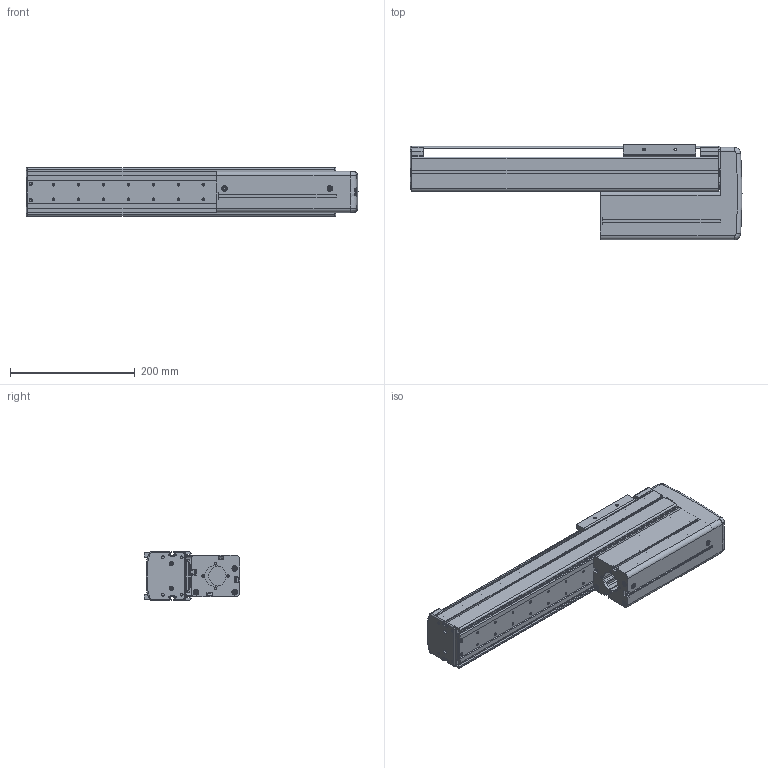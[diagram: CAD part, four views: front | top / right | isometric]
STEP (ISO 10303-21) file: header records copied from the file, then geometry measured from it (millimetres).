
FILE_DESCRIPTION((''),'2;1');
FILE_NAME('BE10E-UU-M_B-30_IGS_PRT','2017-06-17T',(' '),(''),'PRO/ENGINEER BY PARAMETRIC TECHNOLOGY CORPORATION, 2015030','PRO/ENGINEER BY PARAMETRIC TECHNOLOGY CORPORATION, 2015030','');
FILE_SCHEMA(('CONFIG_CONTROL_DESIGN'));
Length unit declared in the file: millimetre
Products named in the file (1): BE10E-UU-M_B-30_IGS_PRT
Bounding box: 532 x 153 x 78 mm (x, y, z)
Volume: 1027581.8 mm3; surface area: 678058.3 mm2
Topology: 2 solids, 96 shells, 1726 faces, 4654 edges, 3001 vertices
Faces by surface type: cylinder 797, plane 701, cone 81, torus 71, sphere 44, bspline 32
Entity records: 56247 total; most frequent: CARTESIAN_POINT 11840, DIRECTION 9624, ORIENTED_EDGE 8880, EDGE_CURVE 4620, AXIS2_PLACEMENT_3D 3557, VERTEX_POINT 3001, VECTOR 2510, LINE 2510
